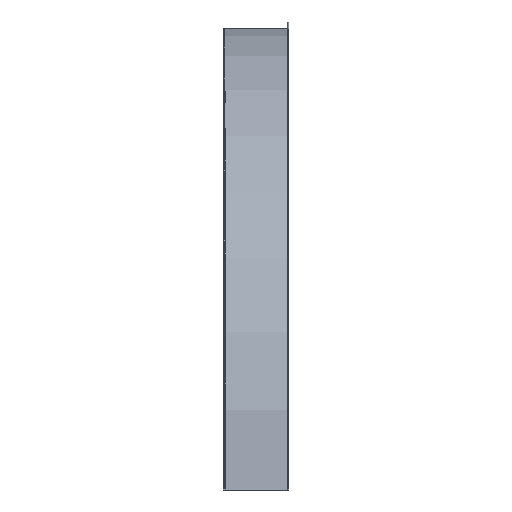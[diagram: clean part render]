
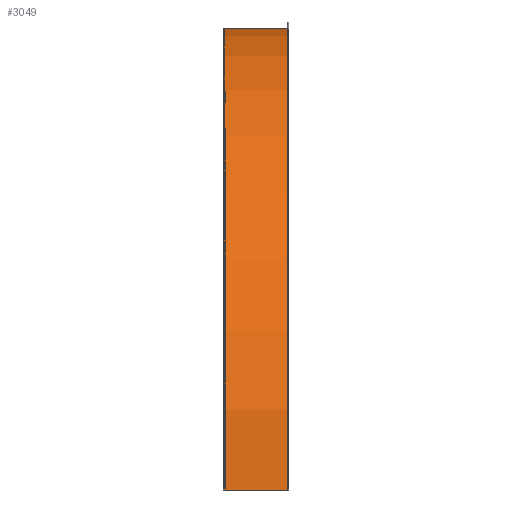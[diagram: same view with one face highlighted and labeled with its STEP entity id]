
A CAD part, left-side view. The second image highlights one B-rep face of the part: STEP entity #3049.
In plain terms, the highlighted cylindrical face has radius 567.252 mm (diameter 1134.5 mm), a partial arc.
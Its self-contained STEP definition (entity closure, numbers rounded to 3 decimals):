
#179 = DIRECTION ( 'NONE',  ( -1., 0., 0. ) ) ;
#187 = ORIENTED_EDGE ( 'NONE', *, *, #743, .T. ) ;
#206 = CARTESIAN_POINT ( 'NONE',  ( 543.752, 79.5, 0. ) ) ;
#212 = AXIS2_PLACEMENT_3D ( 'NONE', #1589, #1616, #179 ) ;
#294 = EDGE_CURVE ( 'NONE', #1126, #381, #331, .T. ) ;
#314 = CARTESIAN_POINT ( 'NONE',  ( 543.752, 0., 0. ) ) ;
#331 = LINE ( 'NONE', #2167, #2614 ) ;
#354 = VERTEX_POINT ( 'NONE', #1198 ) ;
#370 = CARTESIAN_POINT ( 'NONE',  ( -23.5, 1.8, 0. ) ) ;
#381 = VERTEX_POINT ( 'NONE', #1735 ) ;
#571 = VERTEX_POINT ( 'NONE', #370 ) ;
#648 = EDGE_CURVE ( 'NONE', #571, #1126, #1282, .T. ) ;
#685 = EDGE_LOOP ( 'NONE', ( #860, #2881, #2597, #187 ) ) ;
#743 = EDGE_CURVE ( 'NONE', #354, #571, #2358, .T. ) ;
#860 = ORIENTED_EDGE ( 'NONE', *, *, #648, .T. ) ;
#874 = AXIS2_PLACEMENT_3D ( 'NONE', #314, #2640, #2656 ) ;
#948 = VECTOR ( 'NONE', #1043, 1000. ) ;
#1043 = DIRECTION ( 'NONE',  ( 0., -1., 0. ) ) ;
#1124 = AXIS2_PLACEMENT_3D ( 'NONE', #206, #1166, #1855 ) ;
#1126 = VERTEX_POINT ( 'NONE', #1578 ) ;
#1143 = CYLINDRICAL_SURFACE ( 'NONE', #874, 567.252 ) ;
#1166 = DIRECTION ( 'NONE',  ( 0., 1., 0. ) ) ;
#1198 = CARTESIAN_POINT ( 'NONE',  ( -23.5, 79.5, 0. ) ) ;
#1282 = CIRCLE ( 'NONE', #212, 567.252 ) ;
#1578 = CARTESIAN_POINT ( 'NONE',  ( 543.752, 1.8, 567.252 ) ) ;
#1589 = CARTESIAN_POINT ( 'NONE',  ( 543.752, 1.8, 0. ) ) ;
#1616 = DIRECTION ( 'NONE',  ( 0., 1., 0. ) ) ;
#1664 = FACE_OUTER_BOUND ( 'NONE', #685, .T. ) ;
#1735 = CARTESIAN_POINT ( 'NONE',  ( 543.752, 79.5, 567.252 ) ) ;
#1855 = DIRECTION ( 'NONE',  ( -1., 0., 0. ) ) ;
#2106 = CIRCLE ( 'NONE', #1124, 567.252 ) ;
#2167 = CARTESIAN_POINT ( 'NONE',  ( 543.752, 0., 567.252 ) ) ;
#2358 = LINE ( 'NONE', #2422, #948 ) ;
#2422 = CARTESIAN_POINT ( 'NONE',  ( -23.5, 1.8, 0. ) ) ;
#2597 = ORIENTED_EDGE ( 'NONE', *, *, #2872, .F. ) ;
#2614 = VECTOR ( 'NONE', #2620, 1000. ) ;
#2620 = DIRECTION ( 'NONE',  ( 0., 1., 0. ) ) ;
#2640 = DIRECTION ( 'NONE',  ( 0., 1., 0. ) ) ;
#2656 = DIRECTION ( 'NONE',  ( 0., 0., 1. ) ) ;
#2872 = EDGE_CURVE ( 'NONE', #354, #381, #2106, .T. ) ;
#2881 = ORIENTED_EDGE ( 'NONE', *, *, #294, .T. ) ;
#3049 = ADVANCED_FACE ( 'NONE', ( #1664 ), #1143, .T. ) ;
